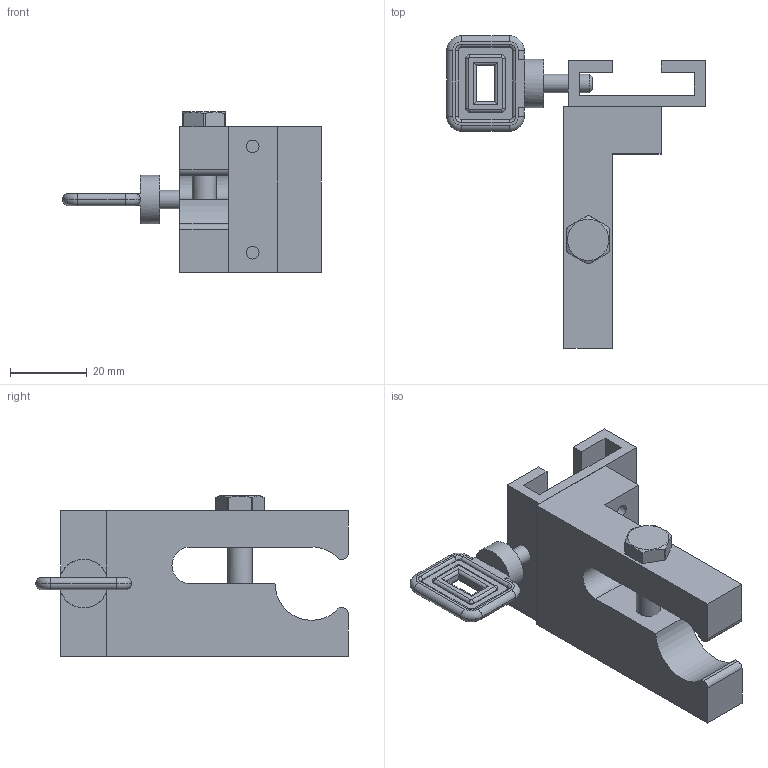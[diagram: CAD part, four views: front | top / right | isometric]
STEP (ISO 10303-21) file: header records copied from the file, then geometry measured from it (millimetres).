
FILE_DESCRIPTION((''),'2;1');
FILE_NAME('C:\3D Projects\1742541 VA10 Mounting Kit\Web Files\1742541 VA10 Mounting Kit.stp','2012-11-27T07:18:53',('patch'),(''),'Autodesk Inventor 2013','Autodesk Inventor 2013','');
FILE_SCHEMA(('AUTOMOTIVE_DESIGN { 1 0 10303 214 1 1 1 1 }'));
Length unit declared in the file: inch
Products named in the file (6): 1742541 VA10 Mounting Kit; 987947 Rev A C-Clamp; 8903707 VA10 Valve Clamp; 984331 Flat Head Socket Screw #8-32 x 0.5; 987948 Rev A Thumbscrew; 986419 Regular Hex Bolt 0.25-20 x 1.5
Assembly tree (6 placements, depth 2):
  1742541 VA10 Mounting Kit
    987947 Rev A C-Clamp
    8903707 VA10 Valve Clamp
    984331 Flat Head Socket Screw #8-32 x 0.5  x2
    987948 Rev A Thumbscrew
    986419 Regular Hex Bolt 0.25-20 x 1.5
Bounding box: 67.67 x 81.72 x 42.07 mm (x, y, z)
Volume: 40057.7 mm3; surface area: 19148 mm2
Topology: 6 solids, 6 shells, 399 faces, 976 edges, 601 vertices
Faces by surface type: cylinder 157, cone 110, plane 105, torus 19, bspline 8
Full cylindrical faces by diameter (mm): 3.302 x2, 3.551 x22, 3.962 x1, 4.166 x22, 4.496 x2, 4.826 x1, 4.978 x1, 5.387 x14, 6.35 x14, 7.366 x1, 12.7 x1
Entity records: 12322 total; most frequent: CARTESIAN_POINT 5259, DIRECTION 1400, ORIENTED_EDGE 1316, EDGE_CURVE 658, AXIS2_PLACEMENT_3D 578, VERTEX_POINT 477, EDGE_LOOP 465, FACE_OUTER_BOUND 320
